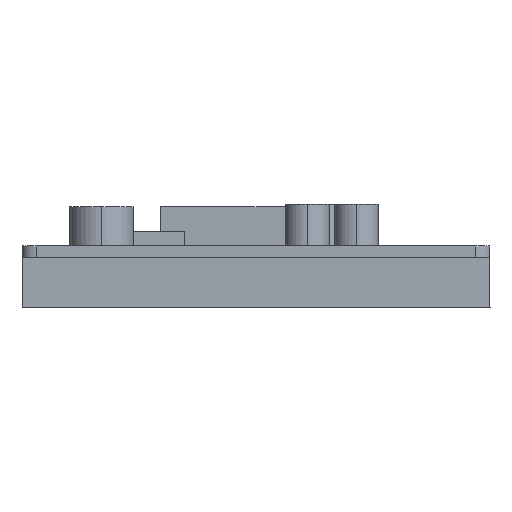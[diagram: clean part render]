
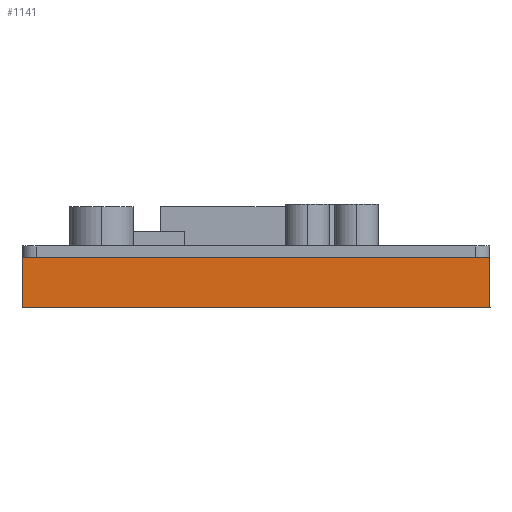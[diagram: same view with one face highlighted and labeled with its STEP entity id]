
A CAD part, left-side view. The second image highlights one B-rep face of the part: STEP entity #1141.
In plain terms, the highlighted planar face has unit normal (-1, 0, 0).
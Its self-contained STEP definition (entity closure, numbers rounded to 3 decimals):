
#255=DIRECTION('',(0.,1.,0.));
#256=VECTOR('',#255,65.4);
#257=CARTESIAN_POINT('',(-118.4,-32.7,-1.6));
#258=LINE('',#257,#256);
#317=DIRECTION('',(0.,0.,-1.));
#318=VECTOR('',#317,7.);
#319=CARTESIAN_POINT('',(-118.4,32.7,-1.6));
#320=LINE('',#319,#318);
#325=DIRECTION('',(0.,0.,-1.));
#326=VECTOR('',#325,7.);
#327=CARTESIAN_POINT('',(-118.4,-32.7,-1.6));
#328=LINE('',#327,#326);
#337=DIRECTION('',(0.,1.,0.));
#338=VECTOR('',#337,65.4);
#339=CARTESIAN_POINT('',(-118.4,-32.7,-8.6));
#340=LINE('',#339,#338);
#669=CARTESIAN_POINT('',(-118.4,-32.7,-8.6));
#670=VERTEX_POINT('',#669);
#671=CARTESIAN_POINT('',(-118.4,32.7,-8.6));
#672=VERTEX_POINT('',#671);
#677=CARTESIAN_POINT('',(-118.4,-32.7,-1.6));
#678=CARTESIAN_POINT('',(-118.4,32.7,-1.6));
#679=VERTEX_POINT('',#677);
#680=VERTEX_POINT('',#678);
#1129=CARTESIAN_POINT('',(-118.4,-32.7,-1.6));
#1130=DIRECTION('',(-1.,0.,0.));
#1131=DIRECTION('',(0.,1.,0.));
#1132=AXIS2_PLACEMENT_3D('',#1129,#1130,#1131);
#1133=PLANE('',#1132);
#1134=ORIENTED_EDGE('',*,*,#966,.F.);
#1135=ORIENTED_EDGE('',*,*,#919,.T.);
#1137=ORIENTED_EDGE('',*,*,#1136,.T.);
#1138=ORIENTED_EDGE('',*,*,#1115,.F.);
#1139=EDGE_LOOP('',(#1134,#1135,#1137,#1138));
#1140=FACE_OUTER_BOUND('',#1139,.F.);
#919=EDGE_CURVE('',#679,#670,#328,.T.);
#966=EDGE_CURVE('',#679,#680,#258,.T.);
#1115=EDGE_CURVE('',#680,#672,#320,.T.);
#1136=EDGE_CURVE('',#670,#672,#340,.T.);
#1141=ADVANCED_FACE('',(#1140),#1133,.T.);
